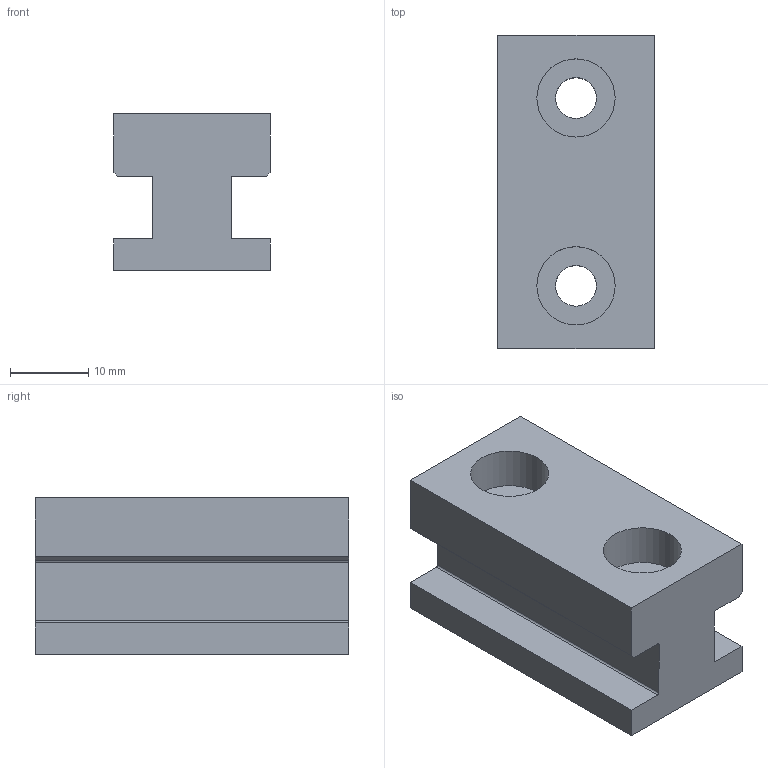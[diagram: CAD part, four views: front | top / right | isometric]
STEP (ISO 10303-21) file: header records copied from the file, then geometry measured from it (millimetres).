
FILE_DESCRIPTION (( 'STEP AP214' ), '1' );
FILE_NAME ('Schieberführung Mitte_-_20 x 20 L=40.step', '2024-01-10T12:53:24', ( '' ), ( '' ), 'SwSTEP 2.0', 'SolidWorks 2020', '' );
FILE_SCHEMA (( 'AUTOMOTIVE_DESIGN' ));
Length unit declared in the file: millimetre
Products named in the file (1): Schieberführung Mitte_-_20 x 20 L=40
Bounding box: 20 x 40 x 20 mm (x, y, z)
Volume: 11323.3 mm3; surface area: 5336 mm2
Topology: 1 solids, 1 shells, 139 faces, 363 edges, 242 vertices
Faces by surface type: plane 81, bspline 50, cylinder 8
Full cylindrical faces by diameter (mm): 5.2 x2, 10 x2
Entity records: 7091 total; most frequent: CARTESIAN_POINT 3967, ORIENTED_EDGE 718, DIRECTION 455, EDGE_CURVE 359, VECTOR 243, LINE 243, VERTEX_POINT 242, EDGE_LOOP 163
